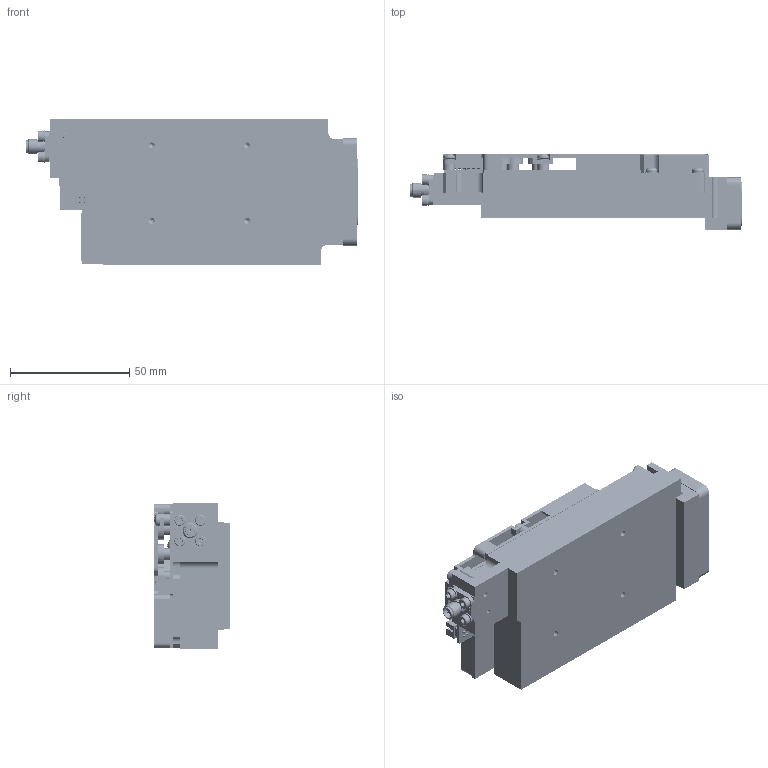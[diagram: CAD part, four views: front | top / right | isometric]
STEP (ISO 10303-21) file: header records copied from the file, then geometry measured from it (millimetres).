
FILE_DESCRIPTION (( 'STEP AP214' ), '1' );
FILE_NAME ('AMUG-FILLED_ASSEMBLY-2025-07-28.STEP', '2025-07-29T09:01:42', ( '' ), ( '' ), 'SwSTEP 2.0', 'SolidWorks 2022', '' );
FILE_SCHEMA (( 'AUTOMOTIVE_DESIGN' ));
Length unit declared in the file: millimetre
Products named in the file (26): 300-0047-00; HRM-306S; 400-0154-00; Washer_Split_Lock_M2.5; 700-0015-00; SCREW_DIN7985_M2.5_x18mm_long; SCREW_DIN7985_M2.5_x14mm_long; Screw_M3x8_92290A113_316_SS_SHCS_92290A113; 800-0038-00; 300-0043-00; AMUG-FILLED_ASSEMBLY-2025-07-28; SCREW_DIN7985_M2.5_x10mm_long; 400-0130-00-flange; Screw_M2.5x20_92010A026_FHMS_92010A026; Dowel_Pin_DIA-2.0mm; 878311420; 300-0046-00; o-ring; Screw_M2.5x12_92010A022_FHMS_92010A022; Washer_Split_Lock_M3; 400-0122-00; 400-0131-00; 400-0129-00_groove-groove; Washer_Flat_M2.5_98689A111_98689A111; 800-0047-00; SCREW_M2.5X6-SHMS_92290A056
Assembly tree (54 placements, depth 3):
  AMUG-FILLED_ASSEMBLY-2025-07-28
    400-0130-00-flange
    400-0122-00
    400-0131-00
    800-0047-00
      300-0047-00
    800-0038-00
      300-0043-00
      878311420
    700-0015-00
      400-0129-00_groove-groove
      300-0046-00
      o-ring  x2
    Washer_Flat_M2.5_98689A111_98689A111  x7
    Washer_Split_Lock_M2.5  x6
    Washer_Split_Lock_M3  x2
    SCREW_DIN7985_M2.5_x10mm_long
    SCREW_DIN7985_M2.5_x18mm_long  x6
    SCREW_DIN7985_M2.5_x14mm_long  x2
    Screw_M2.5x12_92010A022_FHMS_92010A022  x4
    Screw_M2.5x20_92010A026_FHMS_92010A026  x4
    SCREW_M2.5X6-SHMS_92290A056  x4
    Screw_M3x8_92290A113_316_SS_SHCS_92290A113  x2
    Dowel_Pin_DIA-2.0mm
    400-0154-00
    HRM-306S
Bounding box: 139.05 x 31.83 x 61 mm (x, y, z)
Volume: 141986.9 mm3; surface area: 82740.2 mm2
Topology: 51 solids, 51 shells, 3514 faces, 9537 edges, 6183 vertices
Faces by surface type: plane 1564, cylinder 1448, cone 347, bspline 153, torus 2
Entity records: 107818 total; most frequent: CARTESIAN_POINT 30543, ORIENTED_EDGE 12188, DIRECTION 11068, EDGE_CURVE 6094, LINE 4092, VECTOR 4092, VERTEX_POINT 3970, AXIS2_PLACEMENT_3D 3488
